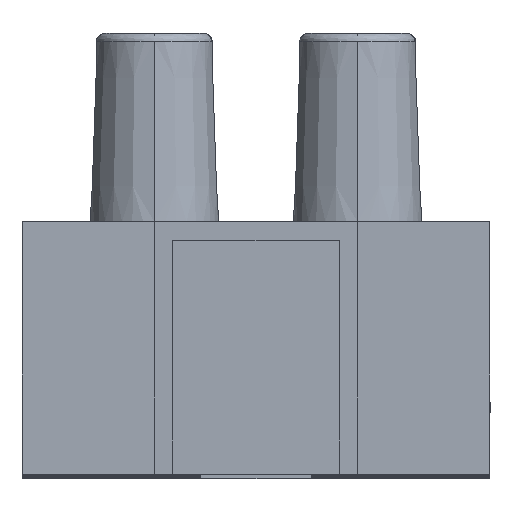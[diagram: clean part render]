
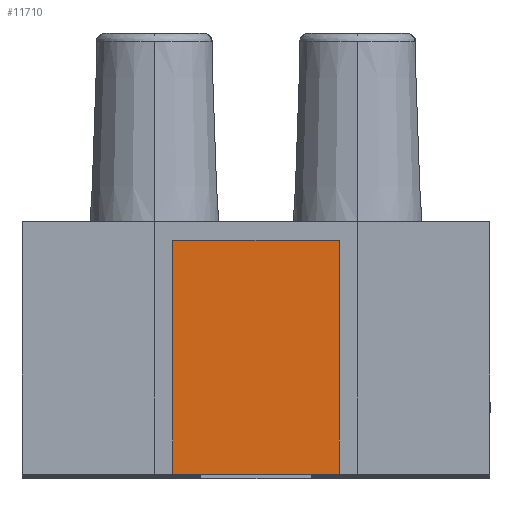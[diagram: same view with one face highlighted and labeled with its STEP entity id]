
A CAD part, top view. The second image highlights one B-rep face of the part: STEP entity #11710.
In plain terms, the highlighted planar face has unit normal (0, 0, 1).
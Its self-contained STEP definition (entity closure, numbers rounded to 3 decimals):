
#2811 = VECTOR ( 'NONE', #33717, 1000. ) ;
#4511 = DIRECTION ( 'NONE',  ( 0., 0., -1. ) ) ;
#4715 = CARTESIAN_POINT ( 'NONE',  ( -25.75, 19., 0. ) ) ;
#6425 = CARTESIAN_POINT ( 'NONE',  ( -12.25, 19., 0. ) ) ;
#7873 = LINE ( 'NONE', #6425, #2811 ) ;
#8088 = EDGE_CURVE ( 'NONE', #19285, #48047, #7873, .T. ) ;
#8418 = EDGE_CURVE ( 'NONE', #48047, #16105, #32926, .T. ) ;
#8539 = DIRECTION ( 'NONE',  ( 0., -1., 0. ) ) ;
#9779 = DIRECTION ( 'NONE',  ( 0., -1., 0. ) ) ;
#10201 = VECTOR ( 'NONE', #22457, 1000. ) ;
#11700 = EDGE_CURVE ( 'NONE', #12392, #19285, #13395, .T. ) ;
#11710 = ADVANCED_FACE ( 'NONE', ( #29193 ), #32209, .F. ) ;
#12392 = VERTEX_POINT ( 'NONE', #23761 ) ;
#13395 = LINE ( 'NONE', #4715, #32040 ) ;
#13543 = ORIENTED_EDGE ( 'NONE', *, *, #8418, .F. ) ;
#16105 = VERTEX_POINT ( 'NONE', #53525 ) ;
#17814 = CARTESIAN_POINT ( 'NONE',  ( -38., 0., 0. ) ) ;
#18167 = CARTESIAN_POINT ( 'NONE',  ( -38., 0., 0. ) ) ;
#19285 = VERTEX_POINT ( 'NONE', #35837 ) ;
#22457 = DIRECTION ( 'NONE',  ( 1., 0., 0. ) ) ;
#23761 = CARTESIAN_POINT ( 'NONE',  ( -25.75, 0., 0. ) ) ;
#29193 = FACE_OUTER_BOUND ( 'NONE', #35542, .T. ) ;
#32040 = VECTOR ( 'NONE', #36835, 1000. ) ;
#32209 = PLANE ( 'NONE',  #47691 ) ;
#32926 = LINE ( 'NONE', #50876, #35057 ) ;
#33717 = DIRECTION ( 'NONE',  ( 1., 0., 0. ) ) ;
#34110 = CARTESIAN_POINT ( 'NONE',  ( -12.25, 19., 0. ) ) ;
#35057 = VECTOR ( 'NONE', #9779, 1000. ) ;
#35542 = EDGE_LOOP ( 'NONE', ( #13543, #39625, #45670, #55029 ) ) ;
#35837 = CARTESIAN_POINT ( 'NONE',  ( -25.75, 19., 0. ) ) ;
#36835 = DIRECTION ( 'NONE',  ( 0., 1., 0. ) ) ;
#39625 = ORIENTED_EDGE ( 'NONE', *, *, #8088, .F. ) ;
#40338 = LINE ( 'NONE', #17814, #10201 ) ;
#45670 = ORIENTED_EDGE ( 'NONE', *, *, #11700, .F. ) ;
#46014 = EDGE_CURVE ( 'NONE', #12392, #16105, #40338, .T. ) ;
#47691 = AXIS2_PLACEMENT_3D ( 'NONE', #18167, #4511, #8539 ) ;
#48047 = VERTEX_POINT ( 'NONE', #34110 ) ;
#50876 = CARTESIAN_POINT ( 'NONE',  ( -12.25, 0., 0. ) ) ;
#53525 = CARTESIAN_POINT ( 'NONE',  ( -12.25, 0., 0. ) ) ;
#55029 = ORIENTED_EDGE ( 'NONE', *, *, #46014, .T. ) ;
